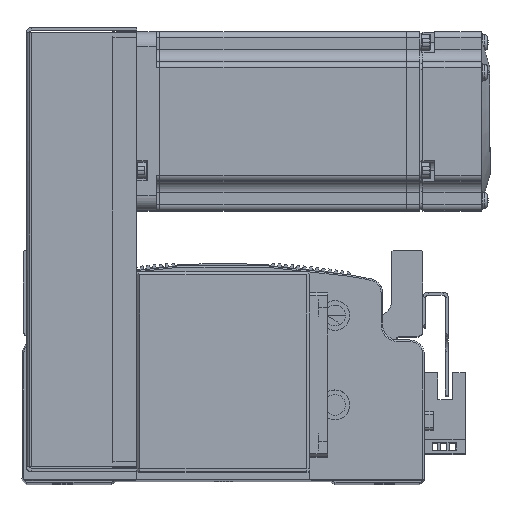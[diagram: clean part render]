
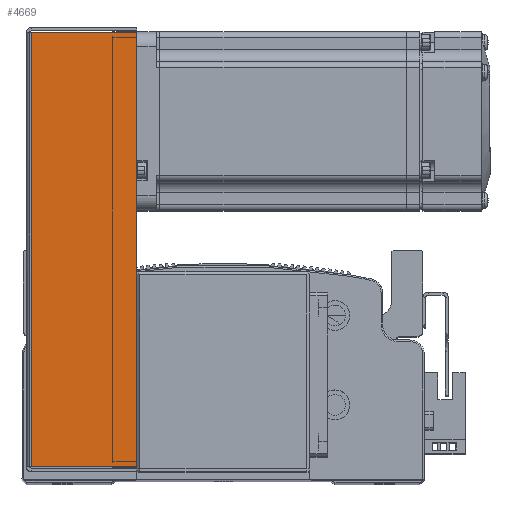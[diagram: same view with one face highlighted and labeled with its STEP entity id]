
A CAD part, top view. The second image highlights one B-rep face of the part: STEP entity #4669.
In plain terms, the highlighted planar face has unit normal (0, 0, 1).
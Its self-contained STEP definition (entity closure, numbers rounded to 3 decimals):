
#4669 = ADVANCED_FACE ( 'NONE', ( #50183 ), #16202, .F. ) ;
#15568 = EDGE_LOOP ( 'NONE', ( #33660, #33746, #33640, #33661 ) ) ;
#16195 = DIRECTION ( 'NONE',  ( 0., 0., -1. ) ) ;
#16202 = PLANE ( 'NONE',  #18209 ) ;
#16204 = CARTESIAN_POINT ( 'NONE',  ( 0., 0., 34.5 ) ) ;
#16211 = DIRECTION ( 'NONE',  ( -1., 0., 0. ) ) ;
#18209 = AXIS2_PLACEMENT_3D ( 'NONE', #16204, #16195, #16211 ) ;
#27307 = VERTEX_POINT ( 'NONE', #44650 ) ;
#27314 = VERTEX_POINT ( 'NONE', #44714 ) ;
#27322 = VERTEX_POINT ( 'NONE', #44701 ) ;
#27323 = VERTEX_POINT ( 'NONE', #44736 ) ;
#33640 = ORIENTED_EDGE ( 'NONE', *, *, #71018, .T. ) ;
#33660 = ORIENTED_EDGE ( 'NONE', *, *, #71062, .F. ) ;
#33661 = ORIENTED_EDGE ( 'NONE', *, *, #71066, .F. ) ;
#33746 = ORIENTED_EDGE ( 'NONE', *, *, #71033, .T. ) ;
#44650 = CARTESIAN_POINT ( 'NONE',  ( 72.793, 36., 34.5 ) ) ;
#44701 = CARTESIAN_POINT ( 'NONE',  ( 72.793, 0.737, 34.5 ) ) ;
#44714 = CARTESIAN_POINT ( 'NONE',  ( -72.793, 0.737, 34.5 ) ) ;
#44736 = CARTESIAN_POINT ( 'NONE',  ( -72.793, 36., 34.5 ) ) ;
#50183 = FACE_OUTER_BOUND ( 'NONE', #15568, .T. ) ;
#56305 = CARTESIAN_POINT ( 'NONE',  ( 0., 36., 34.5 ) ) ;
#56341 = DIRECTION ( 'NONE',  ( -1., 0., 0. ) ) ;
#56370 = DIRECTION ( 'NONE',  ( 0., 1., 0. ) ) ;
#56410 = CARTESIAN_POINT ( 'NONE',  ( 72.793, 0., 34.5 ) ) ;
#56490 = CARTESIAN_POINT ( 'NONE',  ( -74.5, 0.737, 34.5 ) ) ;
#56499 = DIRECTION ( 'NONE',  ( 0., 1., 0. ) ) ;
#56506 = CARTESIAN_POINT ( 'NONE',  ( -72.793, 0., 34.5 ) ) ;
#56512 = DIRECTION ( 'NONE',  ( -1., 0., 0. ) ) ;
#71018 = EDGE_CURVE ( 'NONE', #27307, #27323, #75486, .T. ) ;
#71033 = EDGE_CURVE ( 'NONE', #27322, #27307, #75475, .T. ) ;
#71062 = EDGE_CURVE ( 'NONE', #27322, #27314, #75619, .T. ) ;
#71066 = EDGE_CURVE ( 'NONE', #27314, #27323, #75599, .T. ) ;
#75475 = LINE ( 'NONE', #56410, #75521 ) ;
#75486 = LINE ( 'NONE', #56305, #75503 ) ;
#75503 = VECTOR ( 'NONE', #56341, 1000. ) ;
#75521 = VECTOR ( 'NONE', #56370, 1000. ) ;
#75563 = VECTOR ( 'NONE', #56512, 1000. ) ;
#75595 = VECTOR ( 'NONE', #56499, 1000. ) ;
#75599 = LINE ( 'NONE', #56506, #75595 ) ;
#75619 = LINE ( 'NONE', #56490, #75563 ) ;
